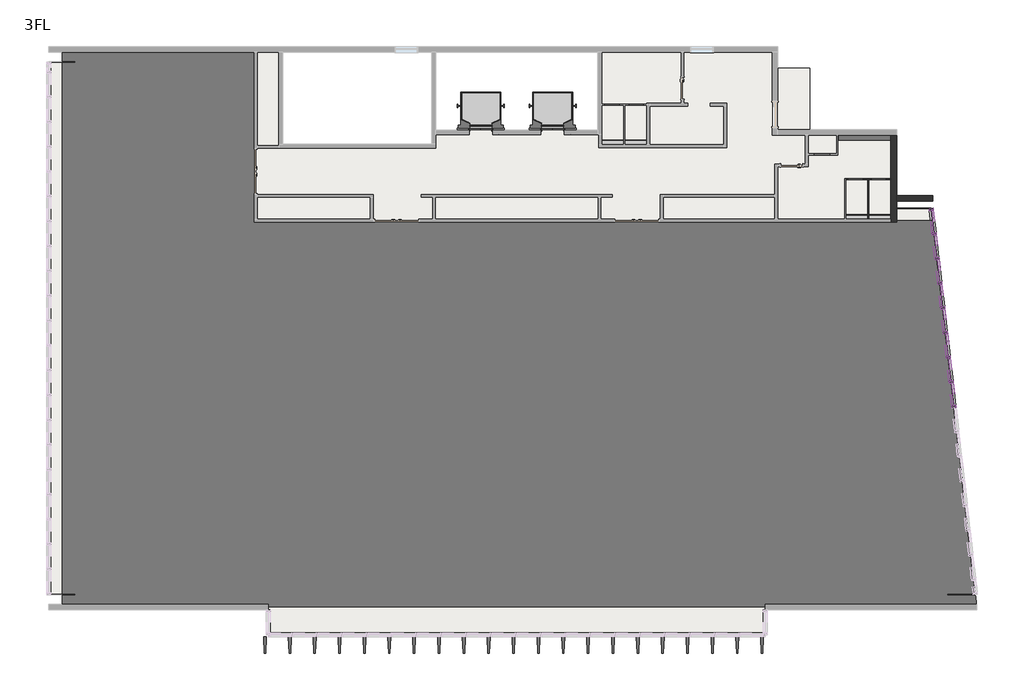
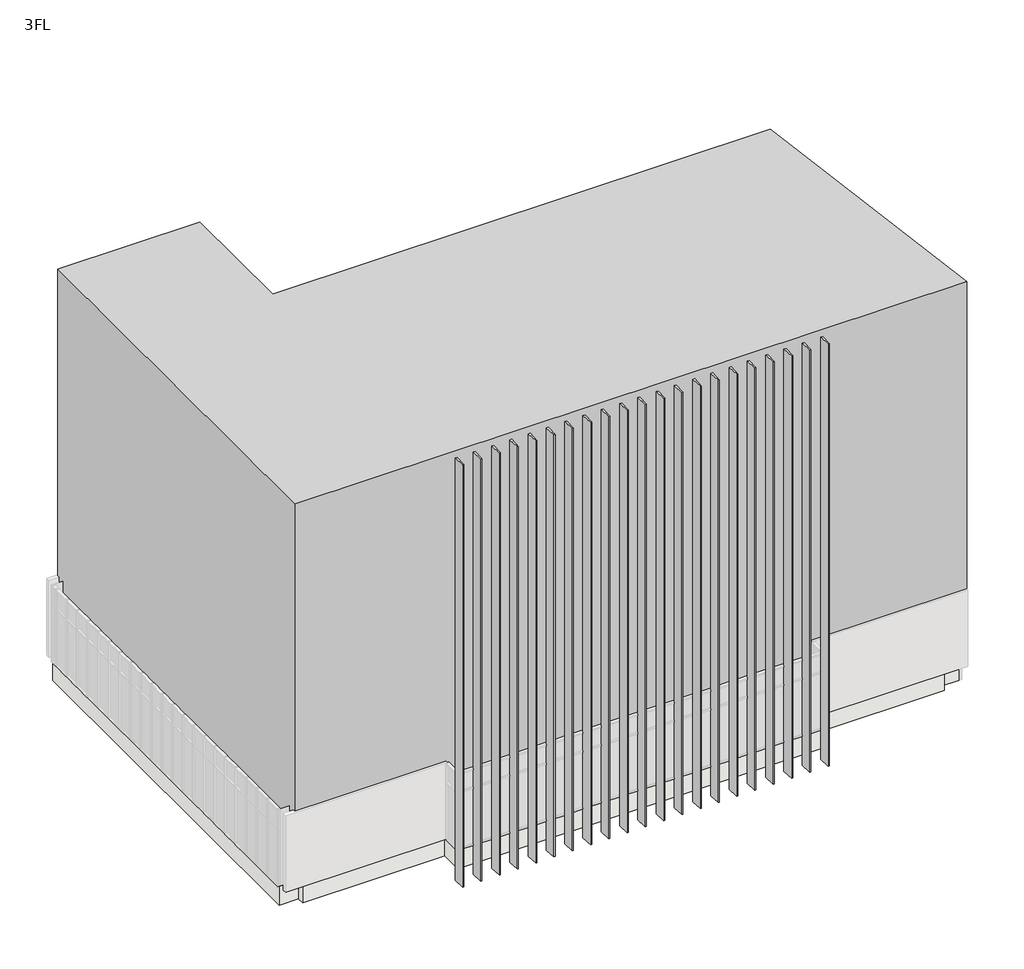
# One storey, part 5 of 5: 59 members, 26 plates, 10 proxies, 4 flow terminals, 4 walls, 2 slabs.
"""IFC4 building model written with IfcOpenShell, lengths in millimetres."""

from ifc_helpers import new_model, si_unit, frame, origin, place, context, project, spatial, polyline, outline, extrude, faceted_brep, transform, mapped, element, save
from components import specialty_equipment_d755c605, generic_models_c0385aa1, d150_h1500_9903e80e, w550_h2000_5054dc5e, w600_h2000_381ad4ff, flow_terminal_205c4ddb, member_70x150_66cf63de, member_70x150_26475b18, member_70x150_ad4265bc, member_70x150_76429c73, member_70x150_cdd4dcf9, member_70x150_1b280ac3, plate_d1366ea1, plate_97be90fd, plate_396bcf3c, plate_a71482e5

model = new_model("IFC4")

# Units and contexts
model_context = context("Model", 3, world=origin())
ifc_project = project(units=[si_unit("LENGTHUNIT", "METRE", prefix="MILLI")], contexts=[model_context])

# Site, building, storey
site = spatial("IfcSite", under=ifc_project)
building = spatial("IfcBuilding", under=site)
storey = spatial("IfcBuildingStorey", under=building, Name="3FL", Elevation=8600.0)

# Proxies
placement = place(None, origin())
element("IfcBuildingElementProxy", 1, Name="i_事務所 : i_事務所", ObjectType="i_事務所 : i_事務所", at=placement, inside=storey, context=model_context, shape_type="SweptSolid", body=[
    extrude(outline(polyline([(-28845.9784025, -3550.3131013), (-28845.9784025, 16649.6868987), (-21845.9784025, 16649.6868987), (-21845.9784025, 10449.6868987), (2661.9595949, 10449.6868987), (4261.9595949, -3550.3131013), (-28845.9784025, -3550.3131013)])), frame((0.0, 0.0, 8600.0), z_axis=(0.0, 0.0, 1.0), x_axis=(1.0, 0.0, 0.0)), (0.0, 0.0, 1.0), 20000.0),
])
specialty_equipment_shape = specialty_equipment_d755c605(model_context)
element("IfcBuildingElementProxy", 2, Name="エレベーター : 9人乗", ObjectType="エレベーター : 9人乗", at=placement, inside=storey, context=model_context, shape_type="MappedRepresentation", body=[
    mapped(specialty_equipment_shape, transform((-11220.9784025, 13649.6868987, 8600.0), x_axis=(1.0, 0.0, 0.0), y_axis=(0.0, 1.0, 0.0), z_axis=(0.0, 0.0, 1.0))),
])
element("IfcBuildingElementProxy", 3, Name="エレベーター : 9人乗", ObjectType="エレベーター : 9人乗", at=placement, inside=storey, context=model_context, shape_type="MappedRepresentation", body=[
    mapped(specialty_equipment_shape, transform((-13820.9784025, 13649.6868987, 8600.0), x_axis=(1.0, 0.0, 0.0), y_axis=(0.0, 1.0, 0.0), z_axis=(0.0, 0.0, 1.0))),
])
generic_models_shape = generic_models_c0385aa1(model_context)
element("IfcBuildingElementProxy", 4, Name="垂直ルーバー : 垂直ルーバー", ObjectType="垂直ルーバー : 垂直ルーバー", at=placement, inside=storey, context=model_context, shape_type="MappedRepresentation", body=[
    mapped(generic_models_shape, transform((-21512.5661277, -4625.3131013, 7100.0), x_axis=(1.0, 0.0, 0.0), y_axis=(0.0, 1.0, 0.0), z_axis=(0.0, 0.0, 1.0))),
])
d150_h1500_shape = d150_h1500_9903e80e(model_context)
element("IfcBuildingElementProxy", 5, Name="r ライニング : D150 H1500", ObjectType="r ライニング : D150 H1500", at=placement, inside=storey, context=model_context, shape_type="MappedRepresentation", body=[
    mapped(d150_h1500_shape, transform((-736.1600971, 13521.6596024, 8600.0), x_axis=(1.0, 0.0, 0.0), y_axis=(0.0, 1.0, 0.0), z_axis=(0.0, 0.0, 1.0))),
])
w550_h2000_shape = w550_h2000_5054dc5e(model_context)
element("IfcBuildingElementProxy", 6, Name="r トイレブース扉 : W550 H2000", ObjectType="r トイレブース扉 : W550 H2000", at=placement, inside=storey, context=model_context, shape_type="MappedRepresentation", body=[
    mapped(w550_h2000_shape, transform((-8823.4784025, 14649.6868987, 8600.0), x_axis=(-1.0, 0.0, 0.0), y_axis=(0.0, -1.0, 0.0), z_axis=(0.0, 0.0, 1.0))),
])
element("IfcBuildingElementProxy", 7, Name="r トイレブース扉 : W550 H2000", ObjectType="r トイレブース扉 : W550 H2000", at=placement, inside=storey, context=model_context, shape_type="MappedRepresentation", body=[
    mapped(w550_h2000_shape, transform((-7940.9784025, 14649.6868987, 8600.0), x_axis=(-1.0, 0.0, 0.0), y_axis=(0.0, -1.0, 0.0), z_axis=(0.0, 0.0, 1.0))),
])
element("IfcBuildingElementProxy", 8, Name="r トイレブース扉 : W550 H2000", ObjectType="r トイレブース扉 : W550 H2000", at=placement, inside=storey, context=model_context, shape_type="MappedRepresentation", body=[
    mapped(w550_h2000_shape, transform((-5.9784025, 11949.6868987, 8600.0), x_axis=(-1.0, 0.0, 0.0), y_axis=(0.0, -1.0, 0.0), z_axis=(0.0, 0.0, 1.0))),
])
element("IfcBuildingElementProxy", 9, Name="r トイレブース扉 : W550 H2000", ObjectType="r トイレブース扉 : W550 H2000", at=placement, inside=storey, context=model_context, shape_type="MappedRepresentation", body=[
    mapped(w550_h2000_shape, transform((834.0215975, 11949.6868987, 8600.0), x_axis=(-1.0, 0.0, 0.0), y_axis=(0.0, -1.0, 0.0), z_axis=(0.0, 0.0, 1.0))),
])
w600_h2000_shape = w600_h2000_381ad4ff(model_context)
element("IfcBuildingElementProxy", 10, Name="r トイレブース扉 : W600 H2000", ObjectType="r トイレブース扉 : W600 H2000", at=placement, inside=storey, context=model_context, shape_type="MappedRepresentation", body=[
    mapped(w600_h2000_shape, transform((-1220.9784025, 12849.6868987, 8600.0), x_axis=(-1.0, 0.0, 0.0), y_axis=(0.0, -1.0, 0.0), z_axis=(0.0, 0.0, 1.0))),
])

# Flow terminals
flow_terminal_shape = flow_terminal_205c4ddb(model_context)
element("IfcFlowTerminal", 11, ObjectType="洋式便器 - ライニング付 - 2D : タイプ 1", at=placement, inside=storey, context=model_context, shape_type="MappedRepresentation", body=[
    mapped(flow_terminal_shape, transform((-9045.9784025, 13149.6868987, 8600.0), x_axis=(1.0, 0.0, 0.0), y_axis=(0.0, 1.0, 0.0), z_axis=(0.0, 0.0, 1.0))),
])
element("IfcFlowTerminal", 12, ObjectType="洋式便器 - ライニング付 - 2D : タイプ 1", at=placement, inside=storey, context=model_context, shape_type="MappedRepresentation", body=[
    mapped(flow_terminal_shape, transform((-8205.9784025, 13149.6868987, 8600.0), x_axis=(1.0, 0.0, 0.0), y_axis=(0.0, 1.0, 0.0), z_axis=(0.0, 0.0, 1.0))),
])
element("IfcFlowTerminal", 13, ObjectType="洋式便器 - ライニング付 - 2D : タイプ 1", at=placement, inside=storey, context=model_context, shape_type="MappedRepresentation", body=[
    mapped(flow_terminal_shape, transform((-210.9784025, 10449.6868987, 8600.0), x_axis=(1.0, 0.0, 0.0), y_axis=(0.0, 1.0, 0.0), z_axis=(0.0, 0.0, 1.0))),
])
element("IfcFlowTerminal", 14, ObjectType="洋式便器 - ライニング付 - 2D : タイプ 1", at=placement, inside=storey, context=model_context, shape_type="MappedRepresentation", body=[
    mapped(flow_terminal_shape, transform((629.0215975, 10449.6868987, 8600.0), x_axis=(1.0, 0.0, 0.0), y_axis=(0.0, 1.0, 0.0), z_axis=(0.0, 0.0, 1.0))),
])

# Members
member_70x150_shape = member_70x150_66cf63de(model_context)
element("IfcMember", 15, ObjectType="長方形のマリオン : 70x150", at=placement, inside=storey, context=model_context, shape_type="MappedRepresentation", body=[
    mapped(member_70x150_shape, transform((2618.4792848, 10830.1396116, 7600.0), x_axis=(0.0, 0.0, -1.0), y_axis=(-0.9935326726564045, -0.11354659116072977, 0.0), z_axis=(-0.11354659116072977, 0.9935326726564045, 0.0))),
])
element("IfcMember", 16, ObjectType="長方形のマリオン : 70x150", at=placement, inside=storey, context=model_context, shape_type="MappedRepresentation", body=[
    mapped(member_70x150_shape, transform((3436.0147412, 3676.7043685, 7600.0), x_axis=(0.0, 0.0, -1.0), y_axis=(-0.9935326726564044, -0.11354659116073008, 0.0), z_axis=(-0.11354659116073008, 0.9935326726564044, 0.0))),
])
element("IfcMember", 17, ObjectType="長方形のマリオン : 70x150", at=placement, inside=storey, context=model_context, shape_type="MappedRepresentation", body=[
    mapped(member_70x150_shape, transform((3333.8228091, 4570.8837739, 7600.0), x_axis=(0.0, 0.0, -1.0), y_axis=(-0.9935326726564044, -0.11354659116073, 0.0), z_axis=(-0.11354659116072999, 0.9935326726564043, 0.0))),
])
element("IfcMember", 18, ObjectType="長方形のマリオン : 70x150", at=placement, inside=storey, context=model_context, shape_type="MappedRepresentation", body=[
    mapped(member_70x150_shape, transform((3231.6308771, 5465.0631793, 7600.0), x_axis=(0.0, 0.0, -1.0), y_axis=(-0.9935326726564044, -0.11354659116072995, 0.0), z_axis=(-0.11354659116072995, 0.9935326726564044, 0.0))),
])
element("IfcMember", 19, ObjectType="長方形のマリオン : 70x150", at=placement, inside=storey, context=model_context, shape_type="MappedRepresentation", body=[
    mapped(member_70x150_shape, transform((3129.438945, 6359.2425847, 7600.0), x_axis=(0.0, 0.0, -1.0), y_axis=(-0.9935326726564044, -0.11354659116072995, 0.0), z_axis=(-0.11354659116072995, 0.9935326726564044, 0.0))),
])
element("IfcMember", 20, ObjectType="長方形のマリオン : 70x150", at=placement, inside=storey, context=model_context, shape_type="MappedRepresentation", body=[
    mapped(member_70x150_shape, transform((3027.247013, 7253.4219901, 7600.0), x_axis=(0.0, 0.0, -1.0), y_axis=(-0.9935326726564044, -0.11354659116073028, 0.0), z_axis=(-0.11354659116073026, 0.9935326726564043, 0.0))),
])
element("IfcMember", 21, ObjectType="長方形のマリオン : 70x150", at=placement, inside=storey, context=model_context, shape_type="MappedRepresentation", body=[
    mapped(member_70x150_shape, transform((2925.0550809, 8147.6013954, 7600.0), x_axis=(0.0, 0.0, -1.0), y_axis=(-0.9935326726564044, -0.1135465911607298, 0.0), z_axis=(-0.1135465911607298, 0.9935326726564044, 0.0))),
])
element("IfcMember", 22, ObjectType="長方形のマリオン : 70x150", at=placement, inside=storey, context=model_context, shape_type="MappedRepresentation", body=[
    mapped(member_70x150_shape, transform((2822.8631489, 9041.7808008, 7600.0), x_axis=(0.0, 0.0, -1.0), y_axis=(-0.9935326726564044, -0.11354659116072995, 0.0), z_axis=(-0.11354659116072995, 0.9935326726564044, 0.0))),
])
element("IfcMember", 23, ObjectType="長方形のマリオン : 70x150", at=placement, inside=storey, context=model_context, shape_type="MappedRepresentation", body=[
    mapped(member_70x150_shape, transform((2720.6712169, 9935.9602062, 7600.0), x_axis=(0.0, 0.0, -1.0), y_axis=(-0.9935326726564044, -0.11354659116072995, 0.0), z_axis=(-0.11354659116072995, 0.9935326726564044, 0.0))),
])
element("IfcMember", 24, ObjectType="長方形のマリオン : 70x150", at=placement, inside=storey, context=model_context, shape_type="MappedRepresentation", body=[
    mapped(member_70x150_shape, transform((3428.0664798, 3746.2516556, 12600.0), x_axis=(0.0, 0.0, 1.0), y_axis=(-0.9935326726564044, -0.11354659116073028, 0.0), z_axis=(0.11354659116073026, -0.9935326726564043, 0.0))),
])
element("IfcMember", 25, ObjectType="長方形のマリオン : 70x150", at=placement, inside=storey, context=model_context, shape_type="MappedRepresentation", body=[
    mapped(member_70x150_shape, transform((3325.8745477, 4640.431061, 12600.0), x_axis=(0.0, 0.0, 1.0), y_axis=(-0.9935326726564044, -0.11354659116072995, 0.0), z_axis=(0.11354659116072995, -0.9935326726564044, 0.0))),
])
element("IfcMember", 26, ObjectType="長方形のマリオン : 70x150", at=placement, inside=storey, context=model_context, shape_type="MappedRepresentation", body=[
    mapped(member_70x150_shape, transform((3223.6826157, 5534.6104664, 12600.0), x_axis=(0.0, 0.0, 1.0), y_axis=(-0.9935326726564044, -0.11354659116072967, 0.0), z_axis=(0.11354659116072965, -0.9935326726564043, 0.0))),
])
element("IfcMember", 27, ObjectType="長方形のマリオン : 70x150", at=placement, inside=storey, context=model_context, shape_type="MappedRepresentation", body=[
    mapped(member_70x150_shape, transform((3121.4906836, 6428.7898717, 12600.0), x_axis=(0.0, 0.0, 1.0), y_axis=(-0.9935326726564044, -0.1135465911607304, 0.0), z_axis=(0.11354659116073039, -0.9935326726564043, 0.0))),
])
element("IfcMember", 28, ObjectType="長方形のマリオン : 70x150", at=placement, inside=storey, context=model_context, shape_type="MappedRepresentation", body=[
    mapped(member_70x150_shape, transform((3019.2987516, 7322.9692771, 12600.0), x_axis=(0.0, 0.0, 1.0), y_axis=(-0.9935326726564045, -0.11354659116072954, 0.0), z_axis=(0.11354659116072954, -0.9935326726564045, 0.0))),
])
element("IfcMember", 29, ObjectType="長方形のマリオン : 70x150", at=placement, inside=storey, context=model_context, shape_type="MappedRepresentation", body=[
    mapped(member_70x150_shape, transform((2917.1068196, 8217.1486825, 12600.0), x_axis=(0.0, 0.0, 1.0), y_axis=(-0.9935326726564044, -0.11354659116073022, 0.0), z_axis=(0.11354659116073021, -0.9935326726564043, 0.0))),
])
element("IfcMember", 30, ObjectType="長方形のマリオン : 70x150", at=placement, inside=storey, context=model_context, shape_type="MappedRepresentation", body=[
    mapped(member_70x150_shape, transform((2814.9148875, 9111.3280879, 12600.0), x_axis=(0.0, 0.0, 1.0), y_axis=(-0.9935326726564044, -0.11354659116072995, 0.0), z_axis=(0.11354659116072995, -0.9935326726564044, 0.0))),
])
element("IfcMember", 31, ObjectType="長方形のマリオン : 70x150", at=placement, inside=storey, context=model_context, shape_type="MappedRepresentation", body=[
    mapped(member_70x150_shape, transform((2712.7229555, 10005.5074933, 12600.0), x_axis=(0.0, 0.0, 1.0), y_axis=(-0.9935326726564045, -0.11354659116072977, 0.0), z_axis=(0.11354659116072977, -0.9935326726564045, 0.0))),
])
member_70x150_2_shape = member_70x150_26475b18(model_context)
element("IfcMember", 32, ObjectType="長方形のマリオン : 70x150", at=placement, inside=storey, context=model_context, shape_type="MappedRepresentation", body=[
    mapped(member_70x150_2_shape, transform((2716.6970862, 9970.7338498, 11600.0), x_axis=(0.11354659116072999, -0.9935326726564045, 0.0), y_axis=(-0.9935326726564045, -0.11354659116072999, 0.0), z_axis=(0.0, 0.0, -1.0))),
])
element("IfcMember", 33, ObjectType="長方形のマリオン : 70x150", at=placement, inside=storey, context=model_context, shape_type="MappedRepresentation", body=[
    mapped(member_70x150_2_shape, transform((3432.0406105, 3711.478012, 11600.0), x_axis=(0.11354659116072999, -0.9935326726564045, 0.0), y_axis=(-0.9935326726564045, -0.11354659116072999, 0.0), z_axis=(0.0, 0.0, -1.0))),
])
element("IfcMember", 34, ObjectType="長方形のマリオン : 70x150", at=placement, inside=storey, context=model_context, shape_type="MappedRepresentation", body=[
    mapped(member_70x150_2_shape, transform((3329.8486784, 4605.6574174, 11600.0), x_axis=(0.11354659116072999, -0.9935326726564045, 0.0), y_axis=(-0.9935326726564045, -0.11354659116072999, 0.0), z_axis=(0.0, 0.0, -1.0))),
])
element("IfcMember", 35, ObjectType="長方形のマリオン : 70x150", at=placement, inside=storey, context=model_context, shape_type="MappedRepresentation", body=[
    mapped(member_70x150_2_shape, transform((3227.6567464, 5499.8368228, 11600.0), x_axis=(0.11354659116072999, -0.9935326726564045, 0.0), y_axis=(-0.9935326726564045, -0.11354659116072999, 0.0), z_axis=(0.0, 0.0, -1.0))),
])
element("IfcMember", 36, ObjectType="長方形のマリオン : 70x150", at=placement, inside=storey, context=model_context, shape_type="MappedRepresentation", body=[
    mapped(member_70x150_2_shape, transform((3125.4648143, 6394.0162282, 11600.0), x_axis=(0.11354659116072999, -0.9935326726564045, 0.0), y_axis=(-0.9935326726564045, -0.11354659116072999, 0.0), z_axis=(0.0, 0.0, -1.0))),
])
element("IfcMember", 37, ObjectType="長方形のマリオン : 70x150", at=placement, inside=storey, context=model_context, shape_type="MappedRepresentation", body=[
    mapped(member_70x150_2_shape, transform((3023.2728823, 7288.1956336, 11600.0), x_axis=(0.11354659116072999, -0.9935326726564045, 0.0), y_axis=(-0.9935326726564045, -0.11354659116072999, 0.0), z_axis=(0.0, 0.0, -1.0))),
])
element("IfcMember", 38, ObjectType="長方形のマリオン : 70x150", at=placement, inside=storey, context=model_context, shape_type="MappedRepresentation", body=[
    mapped(member_70x150_2_shape, transform((2921.0809503, 8182.375039, 11600.0), x_axis=(0.11354659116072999, -0.9935326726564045, 0.0), y_axis=(-0.9935326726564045, -0.11354659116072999, 0.0), z_axis=(0.0, 0.0, -1.0))),
])
element("IfcMember", 39, ObjectType="長方形のマリオン : 70x150", at=placement, inside=storey, context=model_context, shape_type="MappedRepresentation", body=[
    mapped(member_70x150_2_shape, transform((2818.8890182, 9076.5544444, 11600.0), x_axis=(0.11354659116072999, -0.9935326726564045, 0.0), y_axis=(-0.9935326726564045, -0.11354659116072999, 0.0), z_axis=(0.0, 0.0, -1.0))),
])
member_70x150_3_shape = member_70x150_ad4265bc(model_context)
element("IfcMember", 40, ObjectType="長方形のマリオン : 70x150", at=placement, inside=storey, context=model_context, shape_type="MappedRepresentation", body=[
    mapped(member_70x150_3_shape, transform((3428.0664798, 3746.2516556, 8600.0), x_axis=(0.0, 0.0, 1.0), y_axis=(-0.9935326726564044, -0.11354659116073, 0.0), z_axis=(0.11354659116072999, -0.9935326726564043, 0.0))),
])
element("IfcMember", 41, ObjectType="長方形のマリオン : 70x150", at=placement, inside=storey, context=model_context, shape_type="MappedRepresentation", body=[
    mapped(member_70x150_3_shape, transform((3325.8745477, 4640.431061, 8600.0), x_axis=(0.0, 0.0, 1.0), y_axis=(-0.9935326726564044, -0.11354659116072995, 0.0), z_axis=(0.11354659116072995, -0.9935326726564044, 0.0))),
])
element("IfcMember", 42, ObjectType="長方形のマリオン : 70x150", at=placement, inside=storey, context=model_context, shape_type="MappedRepresentation", body=[
    mapped(member_70x150_3_shape, transform((3223.6826157, 5534.6104664, 8600.0), x_axis=(0.0, 0.0, 1.0), y_axis=(-0.9935326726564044, -0.1135465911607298, 0.0), z_axis=(0.1135465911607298, -0.9935326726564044, 0.0))),
])
element("IfcMember", 43, ObjectType="長方形のマリオン : 70x150", at=placement, inside=storey, context=model_context, shape_type="MappedRepresentation", body=[
    mapped(member_70x150_3_shape, transform((3121.4906836, 6428.7898717, 8600.0), x_axis=(0.0, 0.0, 1.0), y_axis=(-0.9935326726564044, -0.1135465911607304, 0.0), z_axis=(0.11354659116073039, -0.9935326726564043, 0.0))),
])
element("IfcMember", 44, ObjectType="長方形のマリオン : 70x150", at=placement, inside=storey, context=model_context, shape_type="MappedRepresentation", body=[
    mapped(member_70x150_3_shape, transform((3019.2987516, 7322.9692771, 8600.0), x_axis=(0.0, 0.0, 1.0), y_axis=(-0.9935326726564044, -0.1135465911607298, 0.0), z_axis=(0.1135465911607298, -0.9935326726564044, 0.0))),
])
element("IfcMember", 45, ObjectType="長方形のマリオン : 70x150", at=placement, inside=storey, context=model_context, shape_type="MappedRepresentation", body=[
    mapped(member_70x150_3_shape, transform((2917.1068196, 8217.1486825, 8600.0), x_axis=(0.0, 0.0, 1.0), y_axis=(-0.9935326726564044, -0.11354659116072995, 0.0), z_axis=(0.11354659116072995, -0.9935326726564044, 0.0))),
])
element("IfcMember", 46, ObjectType="長方形のマリオン : 70x150", at=placement, inside=storey, context=model_context, shape_type="MappedRepresentation", body=[
    mapped(member_70x150_3_shape, transform((2814.9148875, 9111.3280879, 8600.0), x_axis=(0.0, 0.0, 1.0), y_axis=(-0.9935326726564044, -0.11354659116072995, 0.0), z_axis=(0.11354659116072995, -0.9935326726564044, 0.0))),
])
element("IfcMember", 47, ObjectType="長方形のマリオン : 70x150", at=placement, inside=storey, context=model_context, shape_type="MappedRepresentation", body=[
    mapped(member_70x150_3_shape, transform((2712.7229555, 10005.5074933, 11600.0), x_axis=(0.0, 0.0, 1.0), y_axis=(-0.9935326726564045, -0.11354659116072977, 0.0), z_axis=(0.11354659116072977, -0.9935326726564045, 0.0))),
])
element("IfcMember", 48, ObjectType="長方形のマリオン : 70x150", at=placement, inside=storey, context=model_context, shape_type="MappedRepresentation", body=[
    mapped(member_70x150_3_shape, transform((2814.9148875, 9111.3280879, 11600.0), x_axis=(0.0, 0.0, 1.0), y_axis=(-0.9935326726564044, -0.11354659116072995, 0.0), z_axis=(0.11354659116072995, -0.9935326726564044, 0.0))),
])
element("IfcMember", 49, ObjectType="長方形のマリオン : 70x150", at=placement, inside=storey, context=model_context, shape_type="MappedRepresentation", body=[
    mapped(member_70x150_3_shape, transform((2917.1068196, 8217.1486825, 11600.0), x_axis=(0.0, 0.0, 1.0), y_axis=(-0.9935326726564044, -0.11354659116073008, 0.0), z_axis=(0.11354659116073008, -0.9935326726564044, 0.0))),
])
element("IfcMember", 50, ObjectType="長方形のマリオン : 70x150", at=placement, inside=storey, context=model_context, shape_type="MappedRepresentation", body=[
    mapped(member_70x150_3_shape, transform((3019.2987516, 7322.9692771, 11600.0), x_axis=(0.0, 0.0, 1.0), y_axis=(-0.9935326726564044, -0.11354659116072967, 0.0), z_axis=(0.11354659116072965, -0.9935326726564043, 0.0))),
])
element("IfcMember", 51, ObjectType="長方形のマリオン : 70x150", at=placement, inside=storey, context=model_context, shape_type="MappedRepresentation", body=[
    mapped(member_70x150_3_shape, transform((3121.4906836, 6428.7898717, 11600.0), x_axis=(0.0, 0.0, 1.0), y_axis=(-0.9935326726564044, -0.1135465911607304, 0.0), z_axis=(0.11354659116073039, -0.9935326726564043, 0.0))),
])
element("IfcMember", 52, ObjectType="長方形のマリオン : 70x150", at=placement, inside=storey, context=model_context, shape_type="MappedRepresentation", body=[
    mapped(member_70x150_3_shape, transform((3223.6826157, 5534.6104664, 11600.0), x_axis=(0.0, 0.0, 1.0), y_axis=(-0.9935326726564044, -0.11354659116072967, 0.0), z_axis=(0.11354659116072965, -0.9935326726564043, 0.0))),
])
element("IfcMember", 53, ObjectType="長方形のマリオン : 70x150", at=placement, inside=storey, context=model_context, shape_type="MappedRepresentation", body=[
    mapped(member_70x150_3_shape, transform((3325.8745477, 4640.431061, 11600.0), x_axis=(0.0, 0.0, 1.0), y_axis=(-0.9935326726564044, -0.11354659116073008, 0.0), z_axis=(0.11354659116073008, -0.9935326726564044, 0.0))),
])
element("IfcMember", 54, ObjectType="長方形のマリオン : 70x150", at=placement, inside=storey, context=model_context, shape_type="MappedRepresentation", body=[
    mapped(member_70x150_3_shape, transform((3428.0664798, 3746.2516556, 11600.0), x_axis=(0.0, 0.0, 1.0), y_axis=(-0.9935326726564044, -0.11354659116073, 0.0), z_axis=(0.11354659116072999, -0.9935326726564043, 0.0))),
])
element("IfcMember", 55, ObjectType="長方形のマリオン : 70x150", at=placement, inside=storey, context=model_context, shape_type="MappedRepresentation", body=[
    mapped(member_70x150_3_shape, transform((2712.7229555, 10005.5074933, 8600.0), x_axis=(0.0, 0.0, 1.0), y_axis=(-0.9935326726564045, -0.11354659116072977, 0.0), z_axis=(0.11354659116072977, -0.9935326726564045, 0.0))),
])
member_70x150_4_shape = member_70x150_76429c73(model_context)
element("IfcMember", 56, ObjectType="長方形のマリオン : 70x150", at=placement, inside=storey, context=model_context, shape_type="MappedRepresentation", body=[
    mapped(member_70x150_4_shape, transform((2610.5310234, 10899.6868987, 12600.0), x_axis=(-0.11354659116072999, 0.9935326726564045, 0.0), y_axis=(-0.9935326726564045, -0.11354659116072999, 0.0), z_axis=(0.0, 0.0, 1.0))),
])
element("IfcMember", 57, ObjectType="長方形のマリオン : 70x150", at=placement, inside=storey, context=model_context, shape_type="MappedRepresentation", body=[
    mapped(member_70x150_2_shape, transform((3023.2728823, 7288.1956336, 7600.0), x_axis=(0.11354659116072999, -0.9935326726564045, 0.0), y_axis=(-0.9935326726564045, -0.11354659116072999, 0.0), z_axis=(0.0, 0.0, -1.0))),
])
element("IfcMember", 58, ObjectType="長方形のマリオン : 70x150", at=placement, inside=storey, context=model_context, shape_type="MappedRepresentation", body=[
    mapped(member_70x150_2_shape, transform((2716.6970862, 9970.7338498, 7600.0), x_axis=(0.11354659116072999, -0.9935326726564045, 0.0), y_axis=(-0.9935326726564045, -0.11354659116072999, 0.0), z_axis=(0.0, 0.0, -1.0))),
])
element("IfcMember", 59, ObjectType="長方形のマリオン : 70x150", at=placement, inside=storey, context=model_context, shape_type="MappedRepresentation", body=[
    mapped(member_70x150_2_shape, transform((2818.8890182, 9076.5544444, 7600.0), x_axis=(0.11354659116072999, -0.9935326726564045, 0.0), y_axis=(-0.9935326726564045, -0.11354659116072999, 0.0), z_axis=(0.0, 0.0, -1.0))),
])
element("IfcMember", 60, ObjectType="長方形のマリオン : 70x150", at=placement, inside=storey, context=model_context, shape_type="MappedRepresentation", body=[
    mapped(member_70x150_2_shape, transform((3125.4648143, 6394.0162282, 7600.0), x_axis=(0.11354659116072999, -0.9935326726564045, 0.0), y_axis=(-0.9935326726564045, -0.11354659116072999, 0.0), z_axis=(0.0, 0.0, -1.0))),
])
element("IfcMember", 61, ObjectType="長方形のマリオン : 70x150", at=placement, inside=storey, context=model_context, shape_type="MappedRepresentation", body=[
    mapped(member_70x150_2_shape, transform((3329.8486784, 4605.6574174, 7600.0), x_axis=(0.11354659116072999, -0.9935326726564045, 0.0), y_axis=(-0.9935326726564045, -0.11354659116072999, 0.0), z_axis=(0.0, 0.0, -1.0))),
])
element("IfcMember", 62, ObjectType="長方形のマリオン : 70x150", at=placement, inside=storey, context=model_context, shape_type="MappedRepresentation", body=[
    mapped(member_70x150_2_shape, transform((2921.0809503, 8182.375039, 7600.0), x_axis=(0.11354659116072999, -0.9935326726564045, 0.0), y_axis=(-0.9935326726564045, -0.11354659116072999, 0.0), z_axis=(0.0, 0.0, -1.0))),
])
element("IfcMember", 63, ObjectType="長方形のマリオン : 70x150", at=placement, inside=storey, context=model_context, shape_type="MappedRepresentation", body=[
    mapped(member_70x150_2_shape, transform((3227.6567464, 5499.8368228, 7600.0), x_axis=(0.11354659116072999, -0.9935326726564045, 0.0), y_axis=(-0.9935326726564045, -0.11354659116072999, 0.0), z_axis=(0.0, 0.0, -1.0))),
])
member_70x150_5_shape = member_70x150_cdd4dcf9(model_context)
element("IfcMember", 64, ObjectType="長方形のマリオン : 70x150", at=placement, inside=storey, context=model_context, shape_type="MappedRepresentation", body=[
    mapped(member_70x150_5_shape, transform((2716.6970862, 9970.7338498, 8600.0), x_axis=(0.11354659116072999, -0.9935326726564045, 0.0), y_axis=(-0.9935326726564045, -0.11354659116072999, 0.0), z_axis=(0.0, 0.0, -1.0))),
])
element("IfcMember", 65, ObjectType="長方形のマリオン : 70x150", at=placement, inside=storey, context=model_context, shape_type="MappedRepresentation", body=[
    mapped(member_70x150_5_shape, transform((3432.0406105, 3711.478012, 8600.0), x_axis=(0.11354659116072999, -0.9935326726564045, 0.0), y_axis=(-0.9935326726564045, -0.11354659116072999, 0.0), z_axis=(0.0, 0.0, -1.0))),
])
element("IfcMember", 66, ObjectType="長方形のマリオン : 70x150", at=placement, inside=storey, context=model_context, shape_type="MappedRepresentation", body=[
    mapped(member_70x150_5_shape, transform((3329.8486784, 4605.6574174, 8600.0), x_axis=(0.11354659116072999, -0.9935326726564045, 0.0), y_axis=(-0.9935326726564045, -0.11354659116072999, 0.0), z_axis=(0.0, 0.0, -1.0))),
])
element("IfcMember", 67, ObjectType="長方形のマリオン : 70x150", at=placement, inside=storey, context=model_context, shape_type="MappedRepresentation", body=[
    mapped(member_70x150_5_shape, transform((3227.6567464, 5499.8368228, 8600.0), x_axis=(0.11354659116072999, -0.9935326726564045, 0.0), y_axis=(-0.9935326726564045, -0.11354659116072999, 0.0), z_axis=(0.0, 0.0, -1.0))),
])
element("IfcMember", 68, ObjectType="長方形のマリオン : 70x150", at=placement, inside=storey, context=model_context, shape_type="MappedRepresentation", body=[
    mapped(member_70x150_5_shape, transform((3125.4648143, 6394.0162282, 8600.0), x_axis=(0.11354659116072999, -0.9935326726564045, 0.0), y_axis=(-0.9935326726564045, -0.11354659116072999, 0.0), z_axis=(0.0, 0.0, -1.0))),
])
element("IfcMember", 69, ObjectType="長方形のマリオン : 70x150", at=placement, inside=storey, context=model_context, shape_type="MappedRepresentation", body=[
    mapped(member_70x150_5_shape, transform((3023.2728823, 7288.1956336, 8600.0), x_axis=(0.11354659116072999, -0.9935326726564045, 0.0), y_axis=(-0.9935326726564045, -0.11354659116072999, 0.0), z_axis=(0.0, 0.0, -1.0))),
])
element("IfcMember", 70, ObjectType="長方形のマリオン : 70x150", at=placement, inside=storey, context=model_context, shape_type="MappedRepresentation", body=[
    mapped(member_70x150_5_shape, transform((2921.0809503, 8182.375039, 8600.0), x_axis=(0.11354659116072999, -0.9935326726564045, 0.0), y_axis=(-0.9935326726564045, -0.11354659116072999, 0.0), z_axis=(0.0, 0.0, -1.0))),
])
element("IfcMember", 71, ObjectType="長方形のマリオン : 70x150", at=placement, inside=storey, context=model_context, shape_type="MappedRepresentation", body=[
    mapped(member_70x150_5_shape, transform((2818.8890182, 9076.5544444, 8600.0), x_axis=(0.11354659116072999, -0.9935326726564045, 0.0), y_axis=(-0.9935326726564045, -0.11354659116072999, 0.0), z_axis=(0.0, 0.0, -1.0))),
])
element("IfcMember", 72, ObjectType="長方形のマリオン : 70x150", at=placement, inside=storey, context=model_context, shape_type="MappedRepresentation", body=[
    mapped(member_70x150_4_shape, transform((2610.5310234, 10899.6868987, 8600.0), x_axis=(-0.11354659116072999, 0.9935326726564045, 0.0), y_axis=(-0.9935326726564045, -0.11354659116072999, 0.0), z_axis=(0.0, 0.0, 1.0))),
])
member_70x150_6_shape = member_70x150_1b280ac3(model_context)
element("IfcMember", 73, ObjectType="長方形のマリオン : 70x150", at=placement, inside=storey, context=model_context, shape_type="MappedRepresentation", body=[
    mapped(member_70x150_6_shape, transform((2610.5310234, 10899.6868987, 11600.0), x_axis=(-0.11354659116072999, 0.9935326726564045, 0.0), y_axis=(-0.9935326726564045, -0.11354659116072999, 0.0), z_axis=(0.0, 0.0, 1.0))),
])

# Plates
plate_shape = plate_d1366ea1(model_context)
element("IfcPlate", 74, ObjectType="システム パネル : 標準", at=placement, inside=storey, context=model_context, shape_type="MappedRepresentation", body=[
    mapped(plate_shape, transform((1804.0215975, 10899.6868987, 8600.0), x_axis=(1.0, 0.0, 0.0), y_axis=(0.0, 1.0, 0.0), z_axis=(0.0, 0.0, 1.0))),
])
plate_2_shape = plate_97be90fd(model_context)
element("IfcPlate", 75, ObjectType="システム パネル : 標準", at=placement, inside=storey, context=model_context, shape_type="MappedRepresentation", body=[
    mapped(plate_2_shape, transform((2432.2763105, 10899.6868987, 8600.0), x_axis=(1.0, 0.0, 0.0), y_axis=(0.0, 1.0, 0.0), z_axis=(0.0, 0.0, 1.0))),
])
plate_3_shape = plate_396bcf3c(model_context)
element("IfcPlate", 76, ObjectType="システム パネル : 標準", at=placement, inside=storey, context=model_context, shape_type="MappedRepresentation", body=[
    mapped(plate_3_shape, transform((2665.6011201, 10417.8235525, 7670.0), x_axis=(0.11354659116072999, -0.9935326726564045, 0.0), y_axis=(0.9935326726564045, 0.11354659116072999, 0.0), z_axis=(0.0, 0.0, 1.0))),
])
element("IfcPlate", 77, ObjectType="システム パネル : 標準", at=placement, inside=storey, context=model_context, shape_type="MappedRepresentation", body=[
    mapped(plate_3_shape, transform((2767.7930522, 9523.6441471, 7670.0), x_axis=(0.11354659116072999, -0.9935326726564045, 0.0), y_axis=(0.9935326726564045, 0.11354659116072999, 0.0), z_axis=(0.0, 0.0, 1.0))),
])
element("IfcPlate", 78, ObjectType="システム パネル : 標準", at=placement, inside=storey, context=model_context, shape_type="MappedRepresentation", body=[
    mapped(plate_3_shape, transform((2869.9849842, 8629.4647417, 7670.0), x_axis=(0.11354659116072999, -0.9935326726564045, 0.0), y_axis=(0.9935326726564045, 0.11354659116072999, 0.0), z_axis=(0.0, 0.0, 1.0))),
])
element("IfcPlate", 79, ObjectType="システム パネル : 標準", at=placement, inside=storey, context=model_context, shape_type="MappedRepresentation", body=[
    mapped(plate_3_shape, transform((2972.1769163, 7735.2853363, 7670.0), x_axis=(0.11354659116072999, -0.9935326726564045, 0.0), y_axis=(0.9935326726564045, 0.11354659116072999, 0.0), z_axis=(0.0, 0.0, 1.0))),
])
element("IfcPlate", 80, ObjectType="システム パネル : 標準", at=placement, inside=storey, context=model_context, shape_type="MappedRepresentation", body=[
    mapped(plate_3_shape, transform((3074.3688483, 6841.1059309, 7670.0), x_axis=(0.11354659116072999, -0.9935326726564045, 0.0), y_axis=(0.9935326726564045, 0.11354659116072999, 0.0), z_axis=(0.0, 0.0, 1.0))),
])
element("IfcPlate", 81, ObjectType="システム パネル : 標準", at=placement, inside=storey, context=model_context, shape_type="MappedRepresentation", body=[
    mapped(plate_3_shape, transform((3176.5607804, 5946.9265255, 7670.0), x_axis=(0.11354659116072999, -0.9935326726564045, 0.0), y_axis=(0.9935326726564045, 0.11354659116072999, 0.0), z_axis=(0.0, 0.0, 1.0))),
])
element("IfcPlate", 82, ObjectType="システム パネル : 標準", at=placement, inside=storey, context=model_context, shape_type="MappedRepresentation", body=[
    mapped(plate_3_shape, transform((3278.7527124, 5052.7471201, 7670.0), x_axis=(0.11354659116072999, -0.9935326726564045, 0.0), y_axis=(0.9935326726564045, 0.11354659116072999, 0.0), z_axis=(0.0, 0.0, 1.0))),
])
element("IfcPlate", 83, ObjectType="システム パネル : 標準", at=placement, inside=storey, context=model_context, shape_type="MappedRepresentation", body=[
    mapped(plate_3_shape, transform((3380.9446445, 4158.5677147, 7670.0), x_axis=(0.11354659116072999, -0.9935326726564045, 0.0), y_axis=(0.9935326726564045, 0.11354659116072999, 0.0), z_axis=(0.0, 0.0, 1.0))),
])
element("IfcPlate", 84, ObjectType="システム パネル : 標準", at=placement, inside=storey, context=model_context, shape_type="MappedRepresentation", body=[
    mapped(plate_3_shape, transform((2665.6011201, 10417.8235525, 11635.0), x_axis=(0.11354659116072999, -0.9935326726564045, 0.0), y_axis=(0.9935326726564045, 0.11354659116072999, 0.0), z_axis=(0.0, 0.0, 1.0))),
])
element("IfcPlate", 85, ObjectType="システム パネル : 標準", at=placement, inside=storey, context=model_context, shape_type="MappedRepresentation", body=[
    mapped(plate_3_shape, transform((2767.7930522, 9523.6441471, 11635.0), x_axis=(0.11354659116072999, -0.9935326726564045, 0.0), y_axis=(0.9935326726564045, 0.11354659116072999, 0.0), z_axis=(0.0, 0.0, 1.0))),
])
element("IfcPlate", 86, ObjectType="システム パネル : 標準", at=placement, inside=storey, context=model_context, shape_type="MappedRepresentation", body=[
    mapped(plate_3_shape, transform((2869.9849842, 8629.4647417, 11635.0), x_axis=(0.11354659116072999, -0.9935326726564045, 0.0), y_axis=(0.9935326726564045, 0.11354659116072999, 0.0), z_axis=(0.0, 0.0, 1.0))),
])
element("IfcPlate", 87, ObjectType="システム パネル : 標準", at=placement, inside=storey, context=model_context, shape_type="MappedRepresentation", body=[
    mapped(plate_3_shape, transform((2972.1769163, 7735.2853363, 11635.0), x_axis=(0.11354659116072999, -0.9935326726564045, 0.0), y_axis=(0.9935326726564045, 0.11354659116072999, 0.0), z_axis=(0.0, 0.0, 1.0))),
])
element("IfcPlate", 88, ObjectType="システム パネル : 標準", at=placement, inside=storey, context=model_context, shape_type="MappedRepresentation", body=[
    mapped(plate_3_shape, transform((3074.3688483, 6841.1059309, 11635.0), x_axis=(0.11354659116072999, -0.9935326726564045, 0.0), y_axis=(0.9935326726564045, 0.11354659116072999, 0.0), z_axis=(0.0, 0.0, 1.0))),
])
element("IfcPlate", 89, ObjectType="システム パネル : 標準", at=placement, inside=storey, context=model_context, shape_type="MappedRepresentation", body=[
    mapped(plate_3_shape, transform((3176.5607804, 5946.9265255, 11635.0), x_axis=(0.11354659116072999, -0.9935326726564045, 0.0), y_axis=(0.9935326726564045, 0.11354659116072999, 0.0), z_axis=(0.0, 0.0, 1.0))),
])
element("IfcPlate", 90, ObjectType="システム パネル : 標準", at=placement, inside=storey, context=model_context, shape_type="MappedRepresentation", body=[
    mapped(plate_3_shape, transform((3278.7527124, 5052.7471201, 11635.0), x_axis=(0.11354659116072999, -0.9935326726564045, 0.0), y_axis=(0.9935326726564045, 0.11354659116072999, 0.0), z_axis=(0.0, 0.0, 1.0))),
])
element("IfcPlate", 91, ObjectType="システム パネル : 標準", at=placement, inside=storey, context=model_context, shape_type="MappedRepresentation", body=[
    mapped(plate_3_shape, transform((3380.9446445, 4158.5677147, 11635.0), x_axis=(0.11354659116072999, -0.9935326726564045, 0.0), y_axis=(0.9935326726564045, 0.11354659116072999, 0.0), z_axis=(0.0, 0.0, 1.0))),
])
plate_4_shape = plate_a71482e5(model_context)
element("IfcPlate", 92, ObjectType="システム パネル : 標準", at=placement, inside=storey, context=model_context, shape_type="MappedRepresentation", body=[
    mapped(plate_4_shape, transform((2665.6011201, 10417.8235525, 8635.0), x_axis=(0.11354659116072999, -0.9935326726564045, 0.0), y_axis=(0.9935326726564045, 0.11354659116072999, 0.0), z_axis=(0.0, 0.0, 1.0))),
])
element("IfcPlate", 93, ObjectType="システム パネル : 標準", at=placement, inside=storey, context=model_context, shape_type="MappedRepresentation", body=[
    mapped(plate_4_shape, transform((2767.7930522, 9523.6441471, 8635.0), x_axis=(0.11354659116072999, -0.9935326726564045, 0.0), y_axis=(0.9935326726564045, 0.11354659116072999, 0.0), z_axis=(0.0, 0.0, 1.0))),
])
element("IfcPlate", 94, ObjectType="システム パネル : 標準", at=placement, inside=storey, context=model_context, shape_type="MappedRepresentation", body=[
    mapped(plate_4_shape, transform((2869.9849842, 8629.4647417, 8635.0), x_axis=(0.11354659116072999, -0.9935326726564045, 0.0), y_axis=(0.9935326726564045, 0.11354659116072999, 0.0), z_axis=(0.0, 0.0, 1.0))),
])
element("IfcPlate", 95, ObjectType="システム パネル : 標準", at=placement, inside=storey, context=model_context, shape_type="MappedRepresentation", body=[
    mapped(plate_4_shape, transform((2972.1769163, 7735.2853363, 8635.0), x_axis=(0.11354659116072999, -0.9935326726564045, 0.0), y_axis=(0.9935326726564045, 0.11354659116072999, 0.0), z_axis=(0.0, 0.0, 1.0))),
])
element("IfcPlate", 96, ObjectType="システム パネル : 標準", at=placement, inside=storey, context=model_context, shape_type="MappedRepresentation", body=[
    mapped(plate_4_shape, transform((3074.3688483, 6841.1059309, 8635.0), x_axis=(0.11354659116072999, -0.9935326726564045, 0.0), y_axis=(0.9935326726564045, 0.11354659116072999, 0.0), z_axis=(0.0, 0.0, 1.0))),
])
element("IfcPlate", 97, ObjectType="システム パネル : 標準", at=placement, inside=storey, context=model_context, shape_type="MappedRepresentation", body=[
    mapped(plate_4_shape, transform((3176.5607804, 5946.9265255, 8635.0), x_axis=(0.11354659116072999, -0.9935326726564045, 0.0), y_axis=(0.9935326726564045, 0.11354659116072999, 0.0), z_axis=(0.0, 0.0, 1.0))),
])
element("IfcPlate", 98, ObjectType="システム パネル : 標準", at=placement, inside=storey, context=model_context, shape_type="MappedRepresentation", body=[
    mapped(plate_4_shape, transform((3278.7527124, 5052.7471201, 8635.0), x_axis=(0.11354659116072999, -0.9935326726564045, 0.0), y_axis=(0.9935326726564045, 0.11354659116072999, 0.0), z_axis=(0.0, 0.0, 1.0))),
])
element("IfcPlate", 99, ObjectType="システム パネル : 標準", at=placement, inside=storey, context=model_context, shape_type="MappedRepresentation", body=[
    mapped(plate_4_shape, transform((3380.9446445, 4158.5677147, 8635.0), x_axis=(0.11354659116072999, -0.9935326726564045, 0.0), y_axis=(0.9935326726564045, 0.11354659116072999, 0.0), z_axis=(0.0, 0.0, 1.0))),
])

# Slabs
element("IfcSlab", 100, ObjectType="企画1000", at=placement, inside=storey, context=model_context, shape_type="SweptSolid", body=[
    extrude(outline(polyline([(-20870.9784025, 16549.6868987), (-20870.9784025, 13224.6868987), (-15470.9784025, 13224.6868987), (-15470.9784025, 13724.6868987), (-9470.9784025, 13724.6868987), (-9470.9784025, 16549.6868987), (-3145.9784025, 16549.6868987), (-3145.9784025, 13549.6868987), (1154.0215975, 13549.6868987), (1154.0215975, 10899.6868987), (2610.5310234, 10899.6868987), (4210.5310234, -3100.3131013), (3204.0215975, -3100.3131013), (3204.0215975, -3450.3131013), (-3395.9784025, -3450.3131013), (-3395.9784025, -4550.3131013), (-21395.9784025, -4550.3131013), (-21395.9784025, -3450.3131013), (-28395.9784025, -3450.3131013), (-28395.9784025, -3100.3131013), (-29345.9784025, -3100.3131013), (-29345.9784025, 16199.6868987), (-28395.9784025, 16199.6868987), (-28395.9784025, 16549.6868987), (-20870.9784025, 16549.6868987)])), frame((0.0, 0.0, 7600.0), z_axis=(0.0, 0.0, 1.0), x_axis=(1.0, 0.0, 0.0)), (0.0, 0.0, 1.0), 1000.0),
])
element("IfcSlab", 101, ObjectType="RC150", at=placement, inside=storey, context=model_context, shape_type="SweptSolid", body=[
    extrude(outline(polyline([(-1795.9784025, 13749.6868987), (-2945.9784025, 13749.6868987), (-2945.9784025, 15979.6868987), (-1795.9784025, 15979.6868987), (-1795.9784025, 13749.6868987)])), frame((0.0, 0.0, 8450.0), z_axis=(0.0, 0.0, 1.0), x_axis=(1.0, 0.0, 0.0)), (0.0, 0.0, 1.0), 150.0),
])

# Walls
element("IfcWall", 102, ObjectType="標準200", at=placement, inside=storey, context=model_context, shape_type="Brep", body=[
    faceted_brep([(1154.0215975, 13549.6868987, 8600.0), (1154.0215975, 11969.6868987, 8600.0), (1154.0215975, 11929.6868987, 8600.0), (1154.0215975, 10499.6868987, 8600.0), (1154.0215975, 10399.6868987, 8600.0), (1154.0215975, 10399.6868987, 12600.0), (1154.0215975, 10499.6868987, 12600.0), (1154.0215975, 13549.6868987, 12600.0), (1354.0215975, 13549.6868987, 8600.0), (1354.0215975, 13549.6868987, 12600.0), (1354.0215975, 11349.6868987, 12600.0), (1354.0215975, 11149.6868987, 12600.0), (1354.0215975, 10399.6868987, 12600.0), (1354.0215975, 10399.6868987, 8600.0), (1354.0215975, 11149.6868987, 8600.0), (1354.0215975, 11349.6868987, 8600.0)], [[[0, 1, 2, 3, 4, 5, 6, 7]], [[8, 9, 10, 11, 12, 13, 14, 15]], [[4, 3, 2, 1, 0, 8, 15, 14, 13]], [[7, 6, 5, 12, 11, 10, 9]], [[0, 7, 9, 8]], [[5, 4, 13, 12]]]),
])
element("IfcWall", 103, ObjectType="標準200", at=placement, inside=storey, context=model_context, shape_type="SweptSolid", body=[
    extrude(outline(polyline([(2661.9595949, 11149.6868987), (1354.0215975, 11149.6868987), (1354.0215975, 11349.6868987), (2661.9595949, 11349.6868987), (2661.9595949, 11149.6868987)])), frame((0.0, 0.0, 8600.0), z_axis=(0.0, 0.0, 1.0), x_axis=(1.0, 0.0, 0.0)), (0.0, 0.0, 1.0), 4000.0),
])
element("IfcWall", 104, ObjectType="トイレブース 40", at=placement, inside=storey, context=model_context, shape_type="Brep", body=[
    faceted_brep([(-485.9784025, 11929.6868987, 10600.0), (-485.9784025, 11929.6868987, 8600.0), (-405.9784025, 11929.6868987, 8600.0), (-405.9784025, 11929.6868987, 10600.0), (-485.9784025, 11969.6868987, 8600.0), (-485.9784025, 11969.6868987, 10600.0), (-405.9784025, 11969.6868987, 10600.0), (-405.9784025, 11969.6868987, 8600.0)], [[[0, 1, 2, 3]], [[4, 5, 6, 7]], [[1, 4, 7, 2]], [[5, 0, 3, 6]], [[1, 0, 5, 4]], [[3, 2, 7, 6]]]),
    faceted_brep([(1154.0215975, 11929.6868987, 8600.0), (1154.0215975, 11929.6868987, 10600.0), (984.0215975, 11929.6868987, 10600.0), (984.0215975, 11929.6868987, 8600.0), (1154.0215975, 11969.6868987, 10600.0), (1154.0215975, 11969.6868987, 8600.0), (984.0215975, 11969.6868987, 8600.0), (984.0215975, 11969.6868987, 10600.0)], [[[0, 1, 2, 3]], [[4, 5, 6, 7]], [[5, 0, 3, 6]], [[1, 4, 7, 2]], [[1, 0, 5, 4]], [[3, 2, 7, 6]]]),
    faceted_brep([(144.0215975, 11929.6868987, 10600.0), (144.0215975, 11929.6868987, 8600.0), (314.0215975, 11929.6868987, 8600.0), (354.0215975, 11929.6868987, 8600.0), (434.0215975, 11929.6868987, 8600.0), (434.0215975, 11929.6868987, 10600.0), (354.0215975, 11929.6868987, 10600.0), (314.0215975, 11929.6868987, 10600.0), (144.0215975, 11969.6868987, 8600.0), (144.0215975, 11969.6868987, 10600.0), (434.0215975, 11969.6868987, 10600.0), (434.0215975, 11969.6868987, 8600.0)], [[[0, 1, 2, 3, 4, 5, 6, 7]], [[8, 9, 10, 11]], [[1, 8, 11, 4, 3, 2]], [[9, 0, 7, 6, 5, 10]], [[1, 0, 9, 8]], [[5, 4, 11, 10]]]),
])
element("IfcWall", 105, ObjectType="トイレブース 40", at=placement, inside=storey, context=model_context, shape_type="SweptSolid", body=[
    extrude(outline(polyline([(354.0215975, 11929.6868987), (354.0215975, 10499.6868987), (314.0215975, 10499.6868987), (314.0215975, 11929.6868987), (354.0215975, 11929.6868987)])), frame((0.0, 0.0, 8600.0), z_axis=(0.0, 0.0, 1.0), x_axis=(1.0, 0.0, 0.0)), (0.0, 0.0, 1.0), 2000.0),
])

save(model, "model.ifc")
